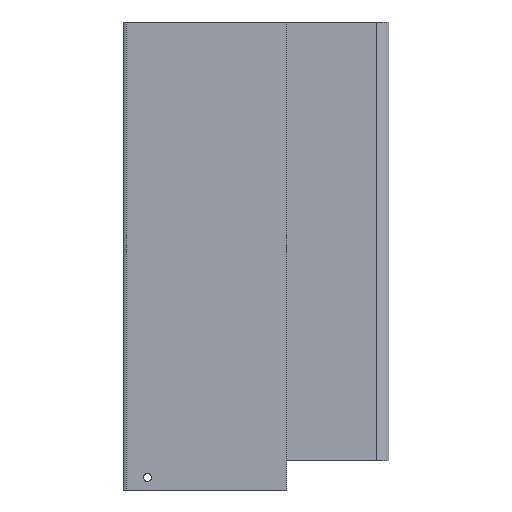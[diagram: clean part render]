
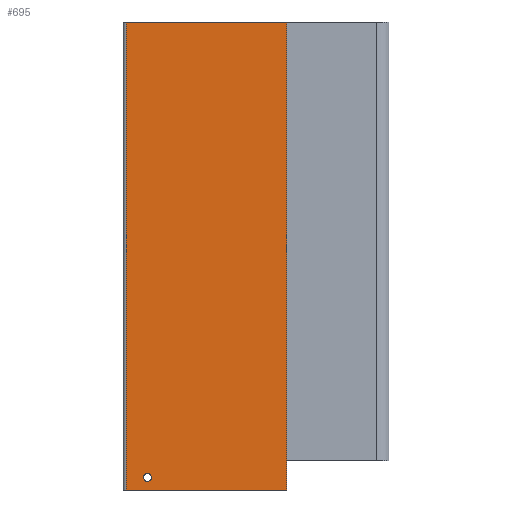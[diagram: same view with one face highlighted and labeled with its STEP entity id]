
A CAD part, left-side view. The second image highlights one B-rep face of the part: STEP entity #695.
In plain terms, the highlighted planar face has unit normal (-1, 0.011, 0).
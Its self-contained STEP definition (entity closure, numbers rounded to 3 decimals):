
#16 = EDGE_CURVE ( 'NONE', #766, #712, #484, .T. ) ;
#31 = DIRECTION ( 'NONE',  ( 0., 0., 1. ) ) ;
#32 = DIRECTION ( 'NONE',  ( 0.011, 1., 0. ) ) ;
#36 = DIRECTION ( 'NONE',  ( -0.011, -1., 0. ) ) ;
#71 = LINE ( 'NONE', #372, #435 ) ;
#95 = CARTESIAN_POINT ( 'NONE',  ( -8.159, 1., -287. ) ) ;
#108 = CARTESIAN_POINT ( 'NONE',  ( -8.159, 1., -287. ) ) ;
#136 = FACE_BOUND ( 'NONE', #734, .T. ) ;
#151 = ORIENTED_EDGE ( 'NONE', *, *, #357, .F. ) ;
#159 = VECTOR ( 'NONE', #376, 1000. ) ;
#170 = CARTESIAN_POINT ( 'NONE',  ( -8.015, 14.62, -297.5 ) ) ;
#175 = CARTESIAN_POINT ( 'NONE',  ( -8.159, 1., -292. ) ) ;
#179 = CARTESIAN_POINT ( 'NONE',  ( -8.159, 1., -287. ) ) ;
#181 = CARTESIAN_POINT ( 'NONE',  ( -9.1, -87.495, -297.5 ) ) ;
#190 = VERTEX_POINT ( 'NONE', #263 ) ;
#232 =( BOUNDED_CURVE ( )  B_SPLINE_CURVE ( 3, ( #108, #379, #238, #708 ),
 .UNSPECIFIED., .F., .T. ) 
 B_SPLINE_CURVE_WITH_KNOTS ( ( 4, 4 ),
 ( 4.712, 7.854 ),
 .UNSPECIFIED. ) 
 CURVE ( )  GEOMETRIC_REPRESENTATION_ITEM ( )  RATIONAL_B_SPLINE_CURVE ( ( 1., 0.333, 0.333, 1. ) ) 
 REPRESENTATION_ITEM ( '' )  );
#238 = CARTESIAN_POINT ( 'NONE',  ( -8.106, 6., -292. ) ) ;
#259 = ORIENTED_EDGE ( 'NONE', *, *, #671, .F. ) ;
#263 = CARTESIAN_POINT ( 'NONE',  ( -8.159, 1., -292. ) ) ;
#294 =( BOUNDED_CURVE ( )  B_SPLINE_CURVE ( 3, ( #175, #847, #574, #179 ),
 .UNSPECIFIED., .F., .F. ) 
 B_SPLINE_CURVE_WITH_KNOTS ( ( 4, 4 ),
 ( 1.571, 4.712 ),
 .UNSPECIFIED. ) 
 CURVE ( )  GEOMETRIC_REPRESENTATION_ITEM ( )  RATIONAL_B_SPLINE_CURVE ( ( 1., 0.333, 0.333, 1. ) ) 
 REPRESENTATION_ITEM ( '' )  );
#305 = CARTESIAN_POINT ( 'NONE',  ( -8.015, 14.62, 0. ) ) ;
#313 = CARTESIAN_POINT ( 'NONE',  ( -9.1, -87.495, 0. ) ) ;
#315 = EDGE_CURVE ( 'NONE', #654, #190, #232, .T. ) ;
#346 = CARTESIAN_POINT ( 'NONE',  ( -9.1, -87.495, -449.403 ) ) ;
#350 = DIRECTION ( 'NONE',  ( 0., 0., 1. ) ) ;
#357 = EDGE_CURVE ( 'NONE', #367, #541, #71, .T. ) ;
#367 = VERTEX_POINT ( 'NONE', #170 ) ;
#372 = CARTESIAN_POINT ( 'NONE',  ( -8.015, 14.62, -449.403 ) ) ;
#376 = DIRECTION ( 'NONE',  ( -0.011, -1., 0. ) ) ;
#379 = CARTESIAN_POINT ( 'NONE',  ( -8.106, 6., -287. ) ) ;
#435 = VECTOR ( 'NONE', #31, 1000. ) ;
#443 = DIRECTION ( 'NONE',  ( 1., -0.011, 0. ) ) ;
#467 = VECTOR ( 'NONE', #350, 1000. ) ;
#472 = ORIENTED_EDGE ( 'NONE', *, *, #650, .F. ) ;
#473 = FACE_OUTER_BOUND ( 'NONE', #879, .T. ) ;
#484 = LINE ( 'NONE', #346, #467 ) ;
#541 = VERTEX_POINT ( 'NONE', #826 ) ;
#574 = CARTESIAN_POINT ( 'NONE',  ( -8.213, -4., -287. ) ) ;
#595 = AXIS2_PLACEMENT_3D ( 'NONE', #710, #443, #36 ) ;
#650 = EDGE_CURVE ( 'NONE', #541, #712, #696, .T. ) ;
#654 = VERTEX_POINT ( 'NONE', #95 ) ;
#671 = EDGE_CURVE ( 'NONE', #766, #367, #875, .T. ) ;
#675 = VECTOR ( 'NONE', #32, 1000. ) ;
#695 = ADVANCED_FACE ( 'NONE', ( #136, #473 ), #846, .F. ) ;
#696 = LINE ( 'NONE', #305, #159 ) ;
#705 = ORIENTED_EDGE ( 'NONE', *, *, #16, .T. ) ;
#708 = CARTESIAN_POINT ( 'NONE',  ( -8.159, 1., -292. ) ) ;
#710 = CARTESIAN_POINT ( 'NONE',  ( -8.015, 14.62, -449.403 ) ) ;
#712 = VERTEX_POINT ( 'NONE', #313 ) ;
#715 = EDGE_CURVE ( 'NONE', #190, #654, #294, .T. ) ;
#734 = EDGE_LOOP ( 'NONE', ( #777, #858 ) ) ;
#766 = VERTEX_POINT ( 'NONE', #181 ) ;
#777 = ORIENTED_EDGE ( 'NONE', *, *, #315, .F. ) ;
#826 = CARTESIAN_POINT ( 'NONE',  ( -8.015, 14.62, 0. ) ) ;
#841 = CARTESIAN_POINT ( 'NONE',  ( -8.015, 14.62, -297.5 ) ) ;
#846 = PLANE ( 'NONE',  #595 ) ;
#847 = CARTESIAN_POINT ( 'NONE',  ( -8.213, -4., -292. ) ) ;
#858 = ORIENTED_EDGE ( 'NONE', *, *, #715, .F. ) ;
#875 = LINE ( 'NONE', #841, #675 ) ;
#879 = EDGE_LOOP ( 'NONE', ( #705, #472, #151, #259 ) ) ;
